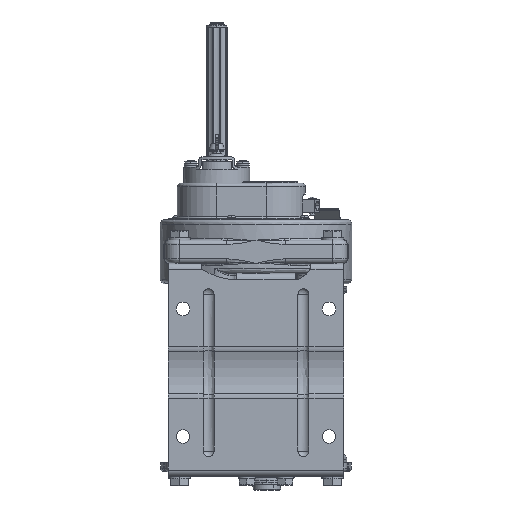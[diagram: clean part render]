
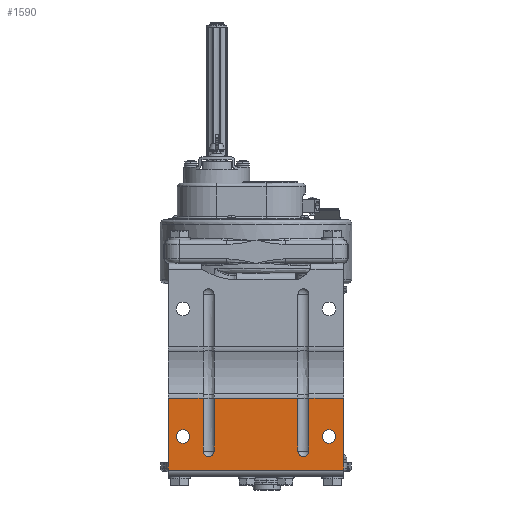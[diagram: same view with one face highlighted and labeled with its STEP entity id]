
A CAD part, front view. The second image highlights one B-rep face of the part: STEP entity #1590.
In plain terms, the highlighted planar face has unit normal (0, -1, 0).
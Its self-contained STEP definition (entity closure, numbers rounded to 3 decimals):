
#1590=ADVANCED_FACE('',(#17511,#17512,#17513),#17510,.T.);
#17510=PLANE('',#38202);
#17511=FACE_OUTER_BOUND('',#38203,.T.);
#17512=FACE_BOUND('',#38204,.T.);
#17513=FACE_BOUND('',#38205,.T.);
#38199=CARTESIAN_POINT('',(11.,-36.383,-259.95));
#38200=DIRECTION('',(0.,-1.,0.));
#38201=DIRECTION('',(0.,0.,1.));
#38202=AXIS2_PLACEMENT_3D('',#38199,#38200,#38201);
#38203=EDGE_LOOP('',(#55211,#55212,#55213,#55214,#55215,#55216,#55217,#55218,#55219,#55220,#55221,#55222));
#38204=EDGE_LOOP('',(#55223,#55224));
#38205=EDGE_LOOP('',(#55225,#55226));
#55211=ORIENTED_EDGE('',*,*,#65388,.F.);
#55212=ORIENTED_EDGE('',*,*,#65341,.F.);
#55213=ORIENTED_EDGE('',*,*,#65367,.T.);
#55214=ORIENTED_EDGE('',*,*,#65400,.T.);
#55215=ORIENTED_EDGE('',*,*,#65401,.F.);
#55216=ORIENTED_EDGE('',*,*,#65333,.T.);
#55217=ORIENTED_EDGE('',*,*,#65402,.T.);
#55218=ORIENTED_EDGE('',*,*,#65403,.T.);
#55219=ORIENTED_EDGE('',*,*,#65365,.F.);
#55220=ORIENTED_EDGE('',*,*,#65336,.F.);
#55221=ORIENTED_EDGE('',*,*,#65364,.T.);
#55222=ORIENTED_EDGE('',*,*,#65404,.T.);
#55223=ORIENTED_EDGE('',*,*,#65405,.F.);
#55224=ORIENTED_EDGE('',*,*,#65406,.F.);
#55225=ORIENTED_EDGE('',*,*,#65407,.F.);
#55226=ORIENTED_EDGE('',*,*,#65408,.F.);
#65333=EDGE_CURVE('',#96706,#96698,#96707,.T.);
#65336=EDGE_CURVE('',#96719,#96727,#96728,.T.);
#65341=EDGE_CURVE('',#96760,#96761,#96762,.T.);
#65364=EDGE_CURVE('',#96719,#96918,#96919,.T.);
#65365=EDGE_CURVE('',#96727,#96925,#96926,.T.);
#65367=EDGE_CURVE('',#96760,#96938,#96939,.T.);
#65388=EDGE_CURVE('',#96761,#97079,#97080,.T.);
#65400=EDGE_CURVE('',#96938,#97160,#97161,.T.);
#65401=EDGE_CURVE('',#96706,#97160,#97167,.T.);
#65402=EDGE_CURVE('',#96698,#97173,#97174,.T.);
#65403=EDGE_CURVE('',#97173,#96925,#97180,.T.);
#65404=EDGE_CURVE('',#96918,#97079,#97186,.T.);
#65405=EDGE_CURVE('',#97192,#97193,#97194,.T.);
#65406=EDGE_CURVE('',#97193,#97192,#97200,.T.);
#65407=EDGE_CURVE('',#97206,#97207,#97208,.T.);
#65408=EDGE_CURVE('',#97207,#97206,#97214,.T.);
#96698=VERTEX_POINT('',#130165);
#96706=VERTEX_POINT('',#130171);
#96707=CIRCLE('',#130175,6.);
#96719=VERTEX_POINT('',#130180);
#96727=VERTEX_POINT('',#130186);
#96728=CIRCLE('',#130190,6.);
#96760=VERTEX_POINT('',#130208);
#96761=VERTEX_POINT('',#130209);
#96762=LINE('',#130210,#130211);
#96918=VERTEX_POINT('',#130302);
#96919=LINE('',#130303,#130304);
#96925=VERTEX_POINT('',#130306);
#96926=LINE('',#130307,#130308);
#96938=VERTEX_POINT('',#130314);
#96939=LINE('',#130315,#130316);
#97079=VERTEX_POINT('',#130397);
#97080=LINE('',#130398,#130399);
#97160=VERTEX_POINT('',#130450);
#97161=LINE('',#130451,#130452);
#97167=LINE('',#130454,#130455);
#97173=VERTEX_POINT('',#130457);
#97174=LINE('',#130458,#130459);
#97180=LINE('',#130461,#130462);
#97186=LINE('',#130464,#130465);
#97192=VERTEX_POINT('',#130467);
#97193=VERTEX_POINT('',#130468);
#97194=CIRCLE('',#130472,7.5);
#97200=CIRCLE('',#130476,7.5);
#97206=VERTEX_POINT('',#130477);
#97207=VERTEX_POINT('',#130478);
#97208=CIRCLE('',#130482,7.5);
#97214=CIRCLE('',#130486,7.5);
#130165=CARTESIAN_POINT('',(-49.,-36.383,-231.302));
#130171=CARTESIAN_POINT('',(-37.,-36.383,-231.302));
#130172=CARTESIAN_POINT('',(-43.,-36.383,-231.302));
#130173=DIRECTION('',(0.,1.,0.));
#130174=DIRECTION('',(1.,0.,0.));
#130175=AXIS2_PLACEMENT_3D('',#130172,#130173,#130174);
#130180=CARTESIAN_POINT('',(-153.,-36.383,-231.302));
#130186=CARTESIAN_POINT('',(-141.,-36.383,-231.302));
#130187=CARTESIAN_POINT('',(-147.,-36.383,-231.302));
#130188=DIRECTION('',(0.,-1.,0.));
#130189=DIRECTION('',(1.,0.,0.));
#130190=AXIS2_PLACEMENT_3D('',#130187,#130188,#130189);
#130208=CARTESIAN_POINT('',(1.,-36.383,-252.1));
#130209=CARTESIAN_POINT('',(-191.,-36.383,-252.1));
#130210=CARTESIAN_POINT('',(1.,-36.383,-252.1));
#130211=VECTOR('',#130212,192.);
#130212=DIRECTION('',(-1.,0.,0.));
#130302=CARTESIAN_POINT('',(-153.,-36.383,-173.596));
#130303=CARTESIAN_POINT('',(-153.,-36.383,-231.302));
#130304=VECTOR('',#130305,57.706);
#130305=DIRECTION('',(0.,0.,1.));
#130306=CARTESIAN_POINT('',(-141.,-36.383,-173.596));
#130307=CARTESIAN_POINT('',(-141.,-36.383,-231.302));
#130308=VECTOR('',#130309,57.706);
#130309=DIRECTION('',(0.,0.,1.));
#130314=CARTESIAN_POINT('',(1.,-36.383,-173.596));
#130315=CARTESIAN_POINT('',(1.,-36.383,-252.1));
#130316=VECTOR('',#130317,78.504);
#130317=DIRECTION('',(0.,0.,1.));
#130397=CARTESIAN_POINT('',(-191.,-36.383,-173.596));
#130398=CARTESIAN_POINT('',(-191.,-36.383,-252.1));
#130399=VECTOR('',#130400,78.504);
#130400=DIRECTION('',(0.,0.,1.));
#130450=CARTESIAN_POINT('',(-37.,-36.383,-173.596));
#130451=CARTESIAN_POINT('',(1.,-36.383,-173.596));
#130452=VECTOR('',#130453,38.);
#130453=DIRECTION('',(-1.,0.,0.));
#130454=CARTESIAN_POINT('',(-37.,-36.383,-231.302));
#130455=VECTOR('',#130456,57.706);
#130456=DIRECTION('',(0.,0.,1.));
#130457=CARTESIAN_POINT('',(-49.,-36.383,-173.596));
#130458=CARTESIAN_POINT('',(-49.,-36.383,-231.302));
#130459=VECTOR('',#130460,57.706);
#130460=DIRECTION('',(0.,0.,1.));
#130461=CARTESIAN_POINT('',(-49.,-36.383,-173.596));
#130462=VECTOR('',#130463,92.);
#130463=DIRECTION('',(-1.,0.,0.));
#130464=CARTESIAN_POINT('',(-153.,-36.383,-173.596));
#130465=VECTOR('',#130466,38.);
#130466=DIRECTION('',(-1.,0.,0.));
#130467=CARTESIAN_POINT('',(-15.,-36.383,-222.9));
#130468=CARTESIAN_POINT('',(-15.,-36.383,-207.9));
#130469=CARTESIAN_POINT('',(-15.,-36.383,-215.4));
#130470=DIRECTION('',(0.,-1.,0.));
#130471=DIRECTION('',(0.,0.,1.));
#130472=AXIS2_PLACEMENT_3D('',#130469,#130470,#130471);
#130473=CARTESIAN_POINT('',(-15.,-36.383,-215.4));
#130474=DIRECTION('',(0.,-1.,0.));
#130475=DIRECTION('',(0.,0.,1.));
#130476=AXIS2_PLACEMENT_3D('',#130473,#130474,#130475);
#130477=CARTESIAN_POINT('',(-175.,-36.383,-222.9));
#130478=CARTESIAN_POINT('',(-175.,-36.383,-207.9));
#130479=CARTESIAN_POINT('',(-175.,-36.383,-215.4));
#130480=DIRECTION('',(0.,-1.,0.));
#130481=DIRECTION('',(0.,0.,1.));
#130482=AXIS2_PLACEMENT_3D('',#130479,#130480,#130481);
#130483=CARTESIAN_POINT('',(-175.,-36.383,-215.4));
#130484=DIRECTION('',(0.,-1.,0.));
#130485=DIRECTION('',(0.,0.,1.));
#130486=AXIS2_PLACEMENT_3D('',#130483,#130484,#130485);
